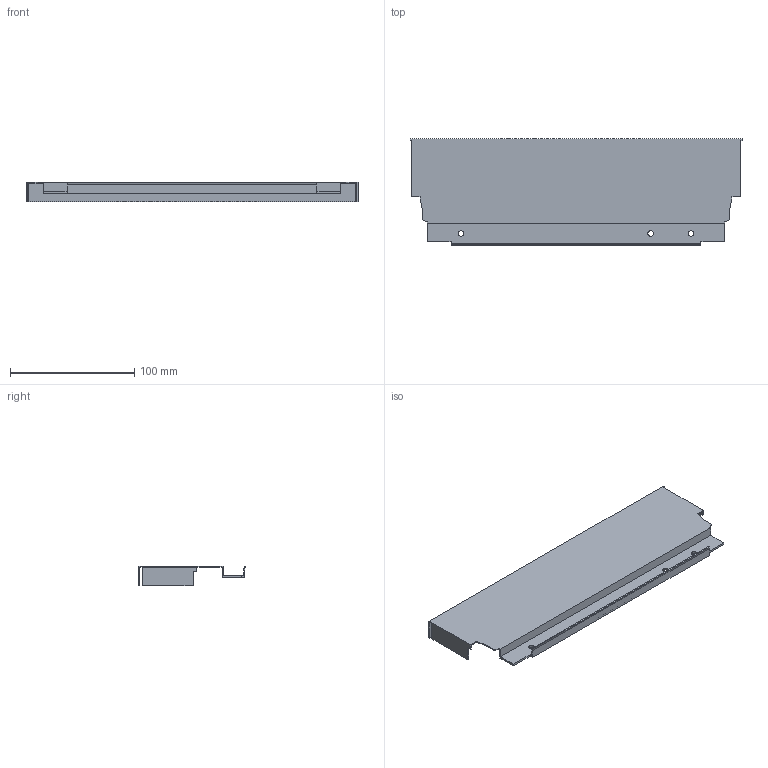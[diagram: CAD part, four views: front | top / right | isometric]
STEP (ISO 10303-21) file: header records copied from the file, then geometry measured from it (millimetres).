
FILE_DESCRIPTION (( 'STEP AP214' ), '1' );
FILE_NAME ('_DWD_XP Stahlrückwand_H86_KAB350_S17.step', '2010-07-08T12:10:04', ( 'grass' ), ( '' ), 'SwSTEP 2.0', 'SolidWorks 2010', '' );
FILE_SCHEMA (( 'AUTOMOTIVE_DESIGN' ));
Length unit declared in the file: millimetre
Products named in the file (1): _DWD_XP Stahlrückwand_H86_KAB350_S17
Bounding box: 267 x 85.79 x 16 mm (x, y, z)
Volume: 27916.3 mm3; surface area: 61556.8 mm2
Topology: 1 solids, 1 shells, 50 faces, 144 edges, 96 vertices
Faces by surface type: plane 44, cylinder 6
Entity records: 1666 total; most frequent: CARTESIAN_POINT 291, ORIENTED_EDGE 288, DIRECTION 258, EDGE_CURVE 144, LINE 132, VECTOR 132, VERTEX_POINT 96, AXIS2_PLACEMENT_3D 63
